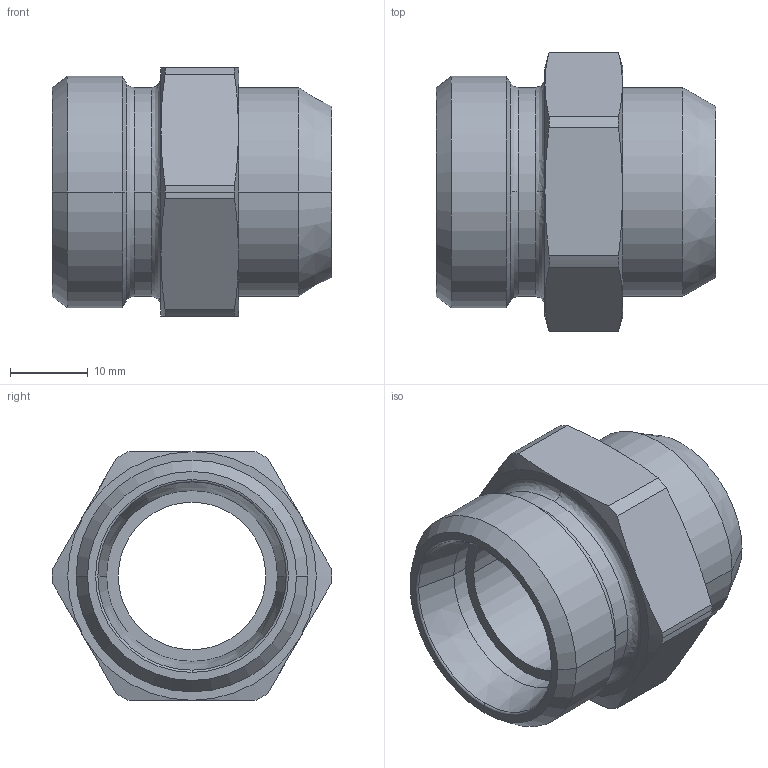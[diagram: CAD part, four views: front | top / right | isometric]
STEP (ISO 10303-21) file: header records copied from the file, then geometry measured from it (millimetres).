
FILE_DESCRIPTION((''),'2;1');
FILE_NAME('105510.stp','2007-10-31T14:03:52',(''),(''),'AutoCAD STEP 2000i','AutoCAD 2000i',', , ');
FILE_SCHEMA(('CONFIG_CONTROL_DESIGN'));
Length unit declared in the file: millimetre
Products named in the file (2): 105510.0; CHIAVE SMUSSATA#0
Assembly tree (1 placements, depth 2):
  105510.0
    CHIAVE SMUSSATA#0
Bounding box: 36 x 36 x 32 mm (x, y, z)
Volume: 13129.3 mm3; surface area: 6563.9 mm2
Topology: 1 solids, 1 shells, 57 faces, 136 edges, 84 vertices
Faces by surface type: cone 22, cylinder 18, plane 11, bspline 4, torus 2
Entity records: 1917 total; most frequent: CARTESIAN_POINT 503, DIRECTION 300, ORIENTED_EDGE 272, EDGE_CURVE 136, AXIS2_PLACEMENT_3D 133, VERTEX_POINT 84, CIRCLE 78, EDGE_LOOP 62
